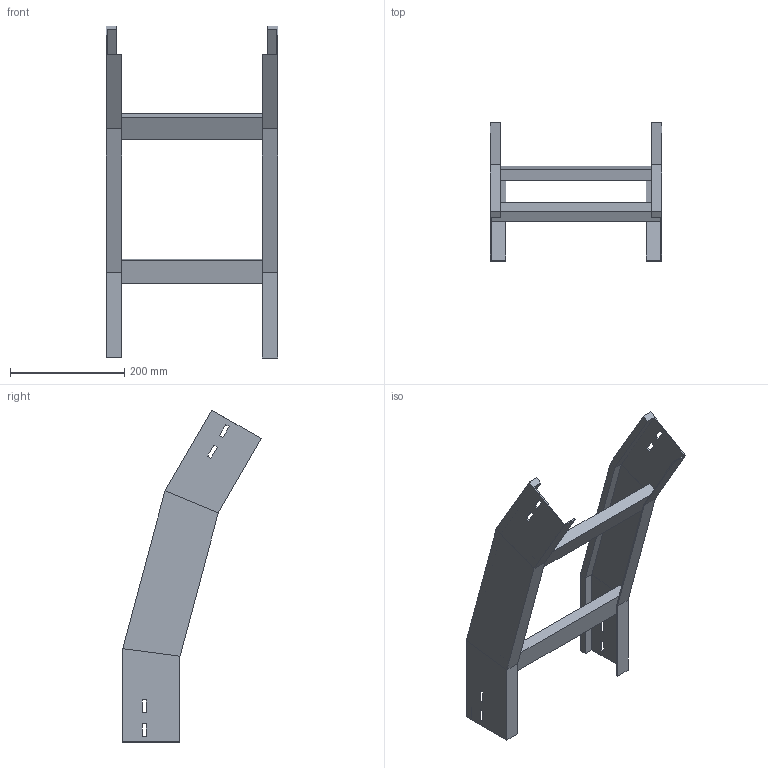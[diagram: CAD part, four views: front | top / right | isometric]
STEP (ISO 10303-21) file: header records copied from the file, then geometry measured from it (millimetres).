
FILE_DESCRIPTION (( 'STEP AP214' ), '1' );
FILE_NAME ('35B5D300.step', '2025-02-21T14:45:38', ( '' ), ( '' ), 'SwSTEP 2.0', 'SolidWorks 2023', '' );
FILE_SCHEMA (( 'AUTOMOTIVE_DESIGN' ));
Length unit declared in the file: millimetre
Products named in the file (3): TRAVERSINO_300; LONGH.DISCESA_30°_H100_R500; 35B5D300
Assembly tree (5 placements, depth 2):
  35B5D300
    LONGH.DISCESA_30°_H100_R500  x2
    TRAVERSINO_300  x3
Bounding box: 300 x 242.03 x 580.08 mm (x, y, z)
Volume: 1240565.4 mm3; surface area: 446251.6 mm2
Topology: 5 solids, 5 shells, 102 faces, 244 edges, 152 vertices
Faces by surface type: plane 102
Entity records: 1480 total; most frequent: CARTESIAN_POINT 244, ORIENTED_EDGE 232, DIRECTION 228, VECTOR 116, LINE 116, EDGE_CURVE 116, VERTEX_POINT 72, AXIS2_PLACEMENT_3D 56
